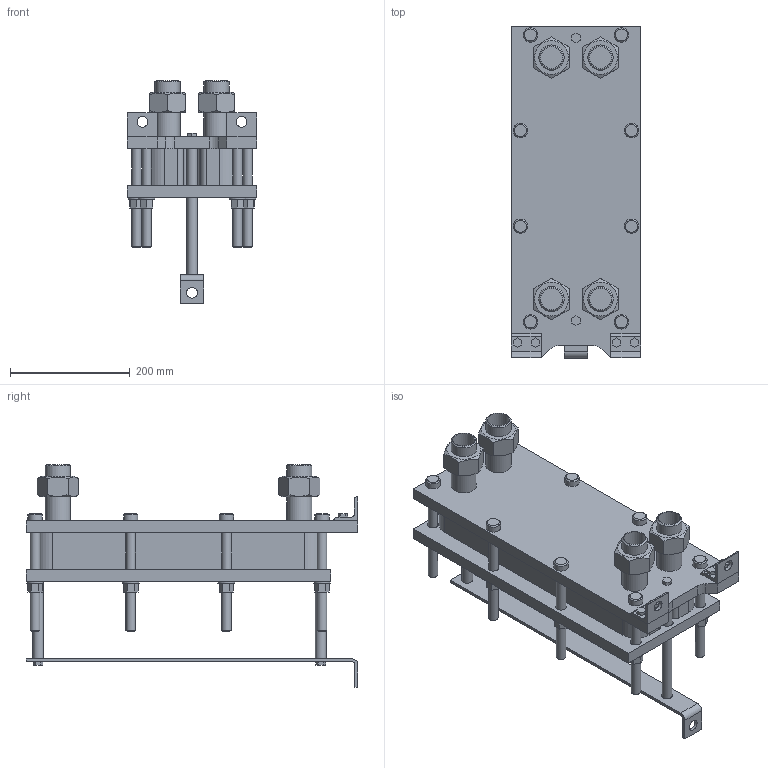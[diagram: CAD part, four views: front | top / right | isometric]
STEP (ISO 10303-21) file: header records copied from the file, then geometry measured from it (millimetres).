
FILE_DESCRIPTION(/* description */ (''),/* implementation_level */ '2;1');
FILE_NAME(/* name */ 'C:\Users\zhuro\Desktop\ENCO\TO\ЭН-004\ЭН-0,5-004-20-1.stp',/* time_stamp */ '2022-06-06T10:45:09+03:00',/* author */ ('zhuro'),/* organization */ (''),/* preprocessor_version */ 'ST-DEVELOPER v18.1',/* originating_system */ 'Autodesk Inventor 2022',/* authorisation */ '');
FILE_SCHEMA (('AUTOMOTIVE_DESIGN { 1 0 10303 214 3 1 1 }'));
Length unit declared in the file: millimetre
Products named in the file (1): ЭН-0,5-004-20-1
Bounding box: 216 x 555 x 373 mm (x, y, z)
Volume: 10123441.9 mm3; surface area: 1093375.8 mm2
Topology: 40 solids, 40 shells, 403 faces, 865 edges, 574 vertices
Faces by surface type: plane 272, cylinder 103, cone 28
Full cylindrical faces by diameter (mm): 10 x4, 16 x16, 18 x29, 20 x2, 24 x8, 28 x8, 36.3 x5, 42.3 x9
Entity records: 11137 total; most frequent: CARTESIAN_POINT 1939, DIRECTION 1879, ORIENTED_EDGE 1730, EDGE_CURVE 865, AXIS2_PLACEMENT_3D 658, VERTEX_POINT 574, LINE 563, VECTOR 563
